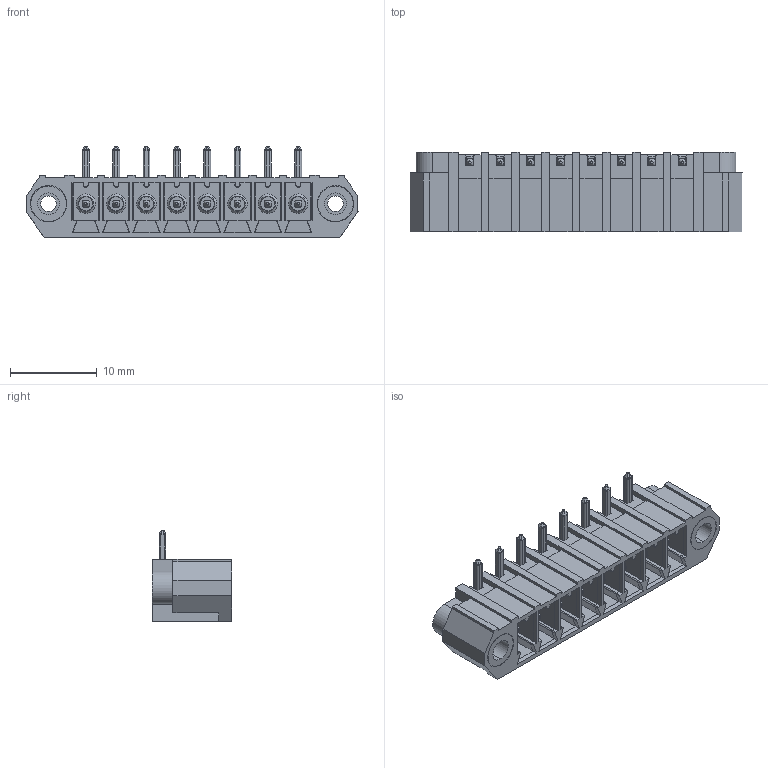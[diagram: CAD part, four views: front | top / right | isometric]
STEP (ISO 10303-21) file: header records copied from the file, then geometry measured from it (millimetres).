
FILE_DESCRIPTION (( 'STEP AP214' ), '1' );
FILE_NAME ('110-M-215-THR-08.STEP', '2008-02-08T03:19:51', ( ' ' ), ( '' ), 'SwSTEP 2.0', 'SolidWorks 2007', '' );
FILE_SCHEMA (( 'AUTOMOTIVE_DESIGN' ));
Length unit declared in the file: millimetre
Products named in the file (1): 110-M-215-THR-08
Bounding box: 38.3 x 9.2 x 10.5 mm (x, y, z)
Volume: 1225 mm3; surface area: 3086.9 mm2
Topology: 1 solids, 1 shells, 1733 faces, 4874 edges, 3007 vertices
Faces by surface type: plane 1032, cylinder 519, bspline 102, cone 80
Entity records: 58660 total; most frequent: CARTESIAN_POINT 18059, ORIENTED_EDGE 9612, DIRECTION 7164, EDGE_CURVE 4806, VERTEX_POINT 3007, VECTOR 2784, LINE 2784, AXIS2_PLACEMENT_3D 2190
